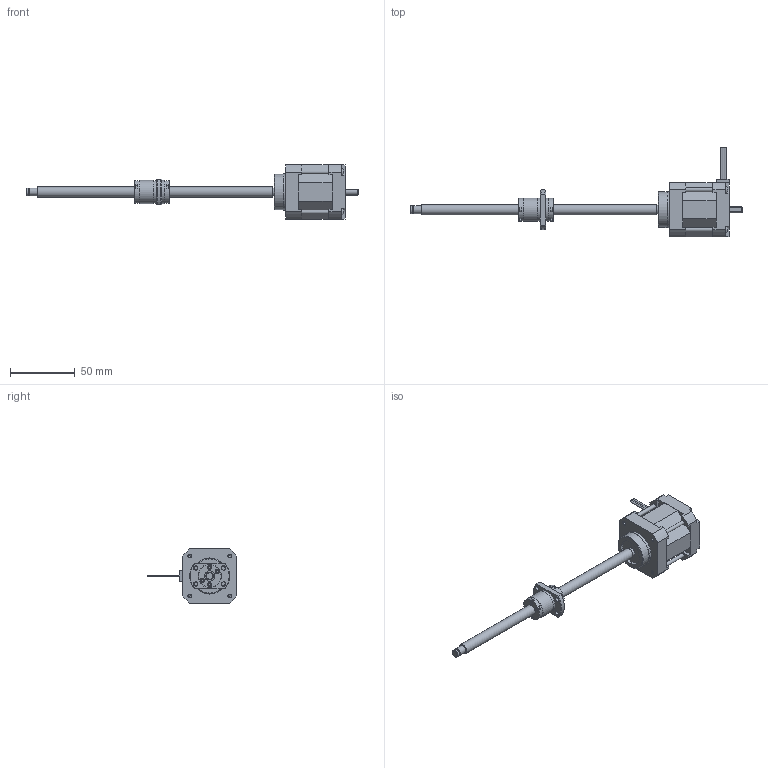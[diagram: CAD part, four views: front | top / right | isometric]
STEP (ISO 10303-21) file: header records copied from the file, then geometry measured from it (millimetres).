
FILE_DESCRIPTION( ( 'STEP AP214' ), ' ' );
FILE_NAME( 'p:/temp/worker_4/1616_1576/app_90_12017090514313222904313260eae72_000000_00_00_000000/format_0/TMB0812(75).stp', '2017-09-05T12:31:33', ( '' ), ( '' ), ' ', 'PARTsolutions', ' ' );
FILE_SCHEMA( ( 'AUTOMOTIVE_DESIGN { 1 0 10303 214 1 1 1 1 }' ) );
Length unit declared in the file: millimetre
Products named in the file (3): TMB0812(75); _TMB0812 (0)motor; _TMB0812 (75)nut
Assembly tree (2 placements, depth 2):
  TMB0812(75)
    _TMB0812 (0)motor
    _TMB0812 (75)nut
Bounding box: 257 x 69.5 x 42 mm (x, y, z)
Volume: 91637.7 mm3; surface area: 22202.8 mm2
Topology: 2 solids, 2 shells, 313 faces, 814 edges, 542 vertices
Faces by surface type: plane 228, cylinder 64, cone 17, bspline 4
Full cylindrical faces by diameter (mm): 1.5 x3, 2.459 x4, 3 x12, 3.4 x4, 5.5 x4, 5.7 x1, 6 x2, 6.7 x1, 8 x2, 17.5 x2, 17.7 x1, 18 x2, 20 x1, 27.5 x1, 28 x1
Entity records: 11881 total; most frequent: CARTESIAN_POINT 1955, ORIENTED_EDGE 1464, DIRECTION 1453, EDGE_CURVE 732, VERTEX_POINT 521, LINE 519, VECTOR 519, AXIS2_PLACEMENT_3D 467
